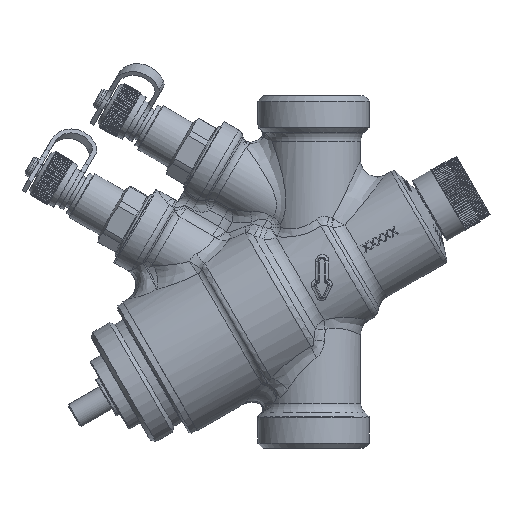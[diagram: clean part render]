
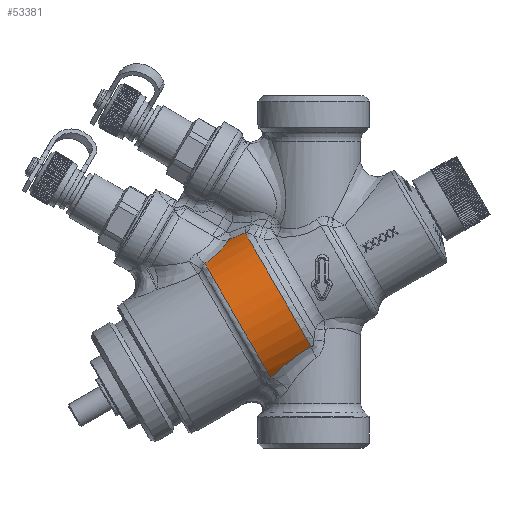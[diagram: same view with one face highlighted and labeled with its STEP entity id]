
A CAD part, left-side view. The second image highlights one B-rep face of the part: STEP entity #53381.
In plain terms, the highlighted cylindrical face has radius 18.65 mm (diameter 37.3 mm), a partial arc.
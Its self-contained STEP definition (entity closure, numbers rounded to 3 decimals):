
#584=ELLIPSE('',#57312,74.686,18.65);
#1866=CIRCLE('',#57347,18.65);
#1867=CIRCLE('',#57348,18.65);
#6118=FACE_OUTER_BOUND('',#9200,.T.);
#9200=EDGE_LOOP('',(#37128,#37129,#37130,#37131,#37132));
#12481=B_SPLINE_CURVE_WITH_KNOTS('',3,(#89771,#89772,#89773,#89774,#89775,
#89776,#89777,#89778,#89779,#89780,#89781,#89782,#89783,#89784,#89785,#89786,
#89787,#89788,#89789,#89790,#89791,#89792,#89793,#89794,#89795,#89796,#89797,
#89798,#89799,#89800,#89801,#89802,#89803,#89804,#89805,#89806,#89807,#89808,
#89809,#89810,#89811,#89812,#89813,#89814,#89815,#89816,#89817,#89818,#89819,
#89820,#89821,#89822,#89823,#89824,#89825),.UNSPECIFIED.,.F.,.F.,(4,3,3,
3,3,3,3,3,3,3,3,3,3,3,3,3,3,3,4),(0.001,0.002,
0.003,0.003,0.004,0.004,
0.004,0.005,0.006,0.006,
0.007,0.007,0.007,0.008,
0.008,0.009,0.01,0.011,
0.011),.UNSPECIFIED.);
#12483=B_SPLINE_CURVE_WITH_KNOTS('',3,(#89847,#89848,#89849,#89850,#89851,
#89852,#89853,#89854,#89855,#89856),.UNSPECIFIED.,.F.,.F.,(4,2,2,2,4),(0.,
0.003,0.006,0.009,0.012),
 .UNSPECIFIED.);
#21999=VERTEX_POINT('',#88735);
#22001=VERTEX_POINT('',#88821);
#22042=VERTEX_POINT('',#89770);
#22044=VERTEX_POINT('',#89843);
#22045=VERTEX_POINT('',#89845);
#27830=EDGE_CURVE('',#22001,#21999,#584,.T.);
#27888=EDGE_CURVE('',#21999,#22042,#12481,.T.);
#27891=EDGE_CURVE('',#22044,#22001,#1866,.T.);
#27892=EDGE_CURVE('',#22045,#22042,#1867,.T.);
#27893=EDGE_CURVE('',#22045,#22044,#12483,.T.);
#37128=ORIENTED_EDGE('',*,*,#27891,.T.);
#37129=ORIENTED_EDGE('',*,*,#27830,.T.);
#37130=ORIENTED_EDGE('',*,*,#27888,.T.);
#37131=ORIENTED_EDGE('',*,*,#27892,.F.);
#37132=ORIENTED_EDGE('',*,*,#27893,.T.);
#51360=CYLINDRICAL_SURFACE('',#57346,18.65);
#53381=ADVANCED_FACE('',(#6118),#51360,.T.);
#57312=AXIS2_PLACEMENT_3D('',#88825,#62622,#62623);
#57346=AXIS2_PLACEMENT_3D('',#89842,#62696,#62697);
#57347=AXIS2_PLACEMENT_3D('',#89844,#62698,#62699);
#57348=AXIS2_PLACEMENT_3D('',#89846,#62700,#62701);
#62622=DIRECTION('center_axis',(-0.828,0.467,0.31));
#62623=DIRECTION('ref_axis',(0.214,0.774,-0.596));
#62696=DIRECTION('center_axis',(0.,0.866,
-0.5));
#62697=DIRECTION('ref_axis',(0.,0.5,0.866));
#62698=DIRECTION('center_axis',(0.,0.866,
-0.5));
#62699=DIRECTION('ref_axis',(0.,0.5,0.866));
#62700=DIRECTION('center_axis',(0.,0.866,
-0.5));
#62701=DIRECTION('ref_axis',(0.,0.5,0.866));
#88735=CARTESIAN_POINT('',(-5.369,19.971,9.094));
#88821=CARTESIAN_POINT('',(-6.906,16.221,10.639));
#88825=CARTESIAN_POINT('Origin',(0.,57.557,-33.23));
#89770=CARTESIAN_POINT('',(-9.913,25.795,3.348));
#89771=CARTESIAN_POINT('Ctrl Pts',(-5.369,19.971,9.094));
#89772=CARTESIAN_POINT('Ctrl Pts',(-5.574,20.059,8.971));
#89773=CARTESIAN_POINT('Ctrl Pts',(-5.772,20.153,8.844));
#89774=CARTESIAN_POINT('Ctrl Pts',(-5.964,20.252,8.712));
#89775=CARTESIAN_POINT('Ctrl Pts',(-6.163,20.355,8.575));
#89776=CARTESIAN_POINT('Ctrl Pts',(-6.354,20.463,8.434));
#89777=CARTESIAN_POINT('Ctrl Pts',(-6.54,20.578,8.287));
#89778=CARTESIAN_POINT('Ctrl Pts',(-6.633,20.636,8.214));
#89779=CARTESIAN_POINT('Ctrl Pts',(-6.724,20.695,8.139));
#89780=CARTESIAN_POINT('Ctrl Pts',(-6.814,20.756,8.063));
#89781=CARTESIAN_POINT('Ctrl Pts',(-6.919,20.827,7.975));
#89782=CARTESIAN_POINT('Ctrl Pts',(-7.022,20.9,7.884));
#89783=CARTESIAN_POINT('Ctrl Pts',(-7.122,20.976,7.793));
#89784=CARTESIAN_POINT('Ctrl Pts',(-7.232,21.059,7.692));
#89785=CARTESIAN_POINT('Ctrl Pts',(-7.34,21.145,7.59));
#89786=CARTESIAN_POINT('Ctrl Pts',(-7.444,21.233,7.487));
#89787=CARTESIAN_POINT('Ctrl Pts',(-7.494,21.276,7.437));
#89788=CARTESIAN_POINT('Ctrl Pts',(-7.544,21.319,7.386));
#89789=CARTESIAN_POINT('Ctrl Pts',(-7.593,21.362,7.336));
#89790=CARTESIAN_POINT('Ctrl Pts',(-7.733,21.488,7.191));
#89791=CARTESIAN_POINT('Ctrl Pts',(-7.867,21.618,7.045));
#89792=CARTESIAN_POINT('Ctrl Pts',(-7.995,21.753,6.897));
#89793=CARTESIAN_POINT('Ctrl Pts',(-8.09,21.853,6.787));
#89794=CARTESIAN_POINT('Ctrl Pts',(-8.182,21.956,6.676));
#89795=CARTESIAN_POINT('Ctrl Pts',(-8.271,22.062,6.564));
#89796=CARTESIAN_POINT('Ctrl Pts',(-8.338,22.142,6.479));
#89797=CARTESIAN_POINT('Ctrl Pts',(-8.404,22.224,6.394));
#89798=CARTESIAN_POINT('Ctrl Pts',(-8.467,22.308,6.309));
#89799=CARTESIAN_POINT('Ctrl Pts',(-8.56,22.43,6.183));
#89800=CARTESIAN_POINT('Ctrl Pts',(-8.649,22.555,6.058));
#89801=CARTESIAN_POINT('Ctrl Pts',(-8.734,22.683,5.932));
#89802=CARTESIAN_POINT('Ctrl Pts',(-8.773,22.742,5.874));
#89803=CARTESIAN_POINT('Ctrl Pts',(-8.811,22.801,5.816));
#89804=CARTESIAN_POINT('Ctrl Pts',(-8.848,22.862,5.758));
#89805=CARTESIAN_POINT('Ctrl Pts',(-8.894,22.936,5.687));
#89806=CARTESIAN_POINT('Ctrl Pts',(-8.938,23.012,5.615));
#89807=CARTESIAN_POINT('Ctrl Pts',(-8.982,23.088,5.543));
#89808=CARTESIAN_POINT('Ctrl Pts',(-9.043,23.197,5.441));
#89809=CARTESIAN_POINT('Ctrl Pts',(-9.102,23.308,5.34));
#89810=CARTESIAN_POINT('Ctrl Pts',(-9.158,23.42,5.239));
#89811=CARTESIAN_POINT('Ctrl Pts',(-9.214,23.532,5.138));
#89812=CARTESIAN_POINT('Ctrl Pts',(-9.267,23.645,5.037));
#89813=CARTESIAN_POINT('Ctrl Pts',(-9.317,23.76,4.938));
#89814=CARTESIAN_POINT('Ctrl Pts',(-9.342,23.818,4.887));
#89815=CARTESIAN_POINT('Ctrl Pts',(-9.367,23.877,4.837));
#89816=CARTESIAN_POINT('Ctrl Pts',(-9.391,23.936,4.787));
#89817=CARTESIAN_POINT('Ctrl Pts',(-9.49,24.178,4.58));
#89818=CARTESIAN_POINT('Ctrl Pts',(-9.577,24.427,4.377));
#89819=CARTESIAN_POINT('Ctrl Pts',(-9.653,24.681,4.176));
#89820=CARTESIAN_POINT('Ctrl Pts',(-9.731,24.941,3.972));
#89821=CARTESIAN_POINT('Ctrl Pts',(-9.797,25.207,3.771));
#89822=CARTESIAN_POINT('Ctrl Pts',(-9.853,25.479,3.574));
#89823=CARTESIAN_POINT('Ctrl Pts',(-9.875,25.583,3.498));
#89824=CARTESIAN_POINT('Ctrl Pts',(-9.895,25.689,3.423));
#89825=CARTESIAN_POINT('Ctrl Pts',(-9.913,25.795,3.348));
#89842=CARTESIAN_POINT('Origin',(0.,-1.386,
0.8));
#89843=CARTESIAN_POINT('',(-12.453,0.617,-16.387));
#89844=CARTESIAN_POINT('Origin',(0.,7.559,
-4.364));
#89845=CARTESIAN_POINT('',(-10.341,10.136,-23.773));
#89846=CARTESIAN_POINT('Origin',(0.,17.896,
-10.332));
#89847=CARTESIAN_POINT('Ctrl Pts',(-10.341,10.136,-23.773));
#89848=CARTESIAN_POINT('Ctrl Pts',(-10.708,9.449,-23.094));
#89849=CARTESIAN_POINT('Ctrl Pts',(-11.026,8.74,-22.419));
#89850=CARTESIAN_POINT('Ctrl Pts',(-11.573,7.275,-21.092));
#89851=CARTESIAN_POINT('Ctrl Pts',(-11.803,6.517,-20.439));
#89852=CARTESIAN_POINT('Ctrl Pts',(-12.17,4.937,-19.172));
#89853=CARTESIAN_POINT('Ctrl Pts',(-12.307,4.112,-18.555));
#89854=CARTESIAN_POINT('Ctrl Pts',(-12.47,2.412,-17.406));
#89855=CARTESIAN_POINT('Ctrl Pts',(-12.497,1.534,-16.871));
#89856=CARTESIAN_POINT('Ctrl Pts',(-12.453,0.617,-16.387));
